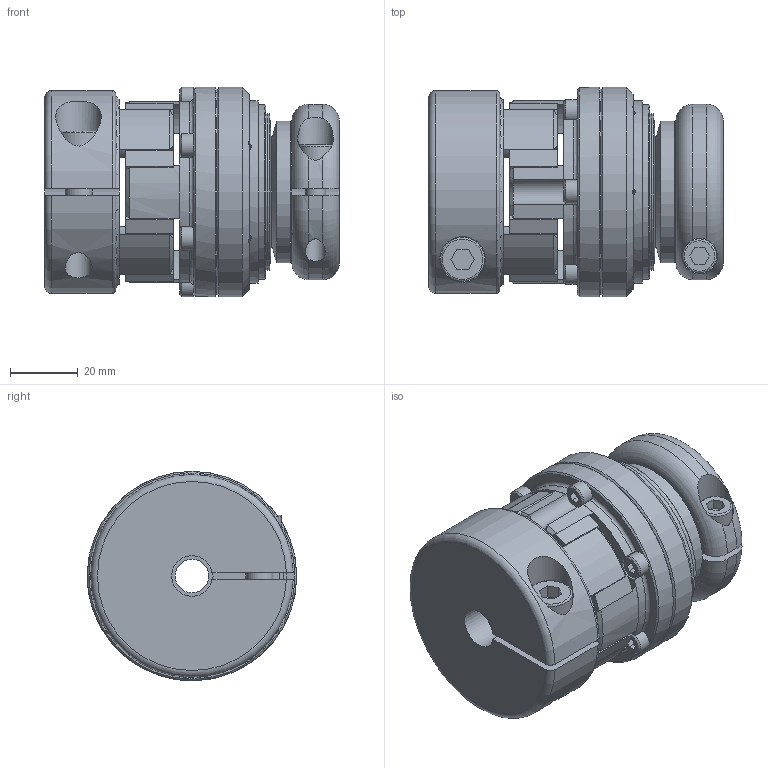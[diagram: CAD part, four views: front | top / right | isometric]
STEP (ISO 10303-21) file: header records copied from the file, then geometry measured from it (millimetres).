
FILE_DESCRIPTION(/* description */ ('Unknown'),/* implementation_level */ '2;1');
FILE_NAME(/* name */ 'SKVA-EK 25',/* time_stamp */ '2025-02-12T14:51:43+01:00',/* author */ ('Unknown'),/* organization */ ('Unknown'),/* preprocessor_version */ 'ST-DEVELOPER v18.102',/* originating_system */ 'Solid Edge',/* authorisation */ 'Unknown');
FILE_SCHEMA (('AUTOMOTIVE_DESIGN {1 0 10303 214 3 1 1}'));
Length unit declared in the file: millimetre
Products named in the file (1): SKVA-EK  25
Bounding box: 87.2 x 62 x 62 mm (x, y, z)
Volume: 185769.6 mm3; surface area: 45382 mm2
Topology: 2 solids, 4 shells, 332 faces, 860 edges, 541 vertices
Faces by surface type: plane 131, cylinder 75, bspline 70, cone 43, torus 13
Full cylindrical faces by diameter (mm): 3.242 x6, 6 x3, 7 x6, 8 x3, 10 x2, 10.5 x1, 12.5 x1, 13 x1, 13.5 x1, 30 x1, 42 x1, 51.7 x1, 54 x1, 62 x2
Entity records: 12177 total; most frequent: CARTESIAN_POINT 2941, ORIENTED_EDGE 1570, DIRECTION 1338, EDGE_CURVE 785, AXIS2_PLACEMENT_3D 518, VERTEX_POINT 517, EDGE_LOOP 420, FACE_BOUND 420
